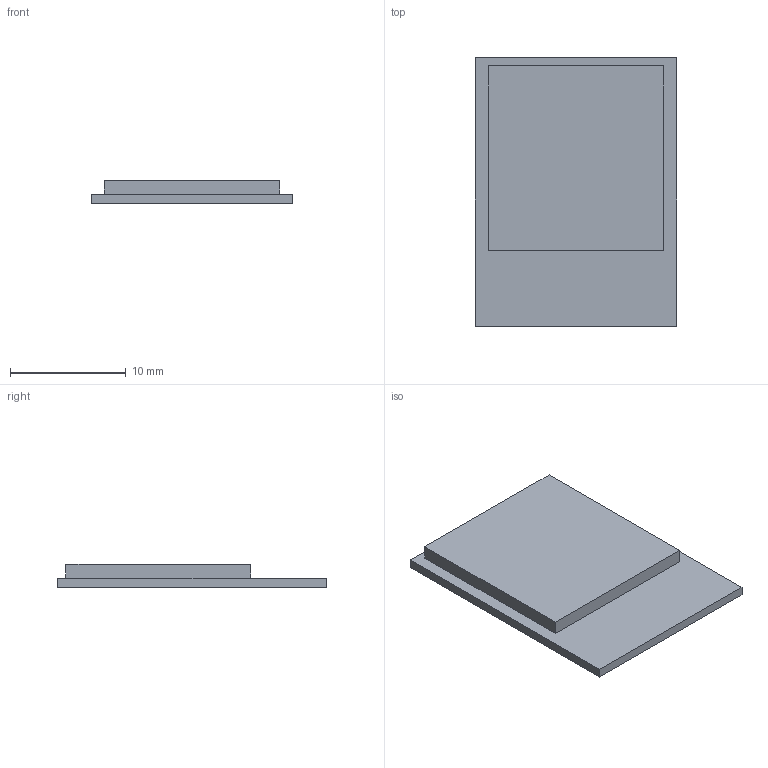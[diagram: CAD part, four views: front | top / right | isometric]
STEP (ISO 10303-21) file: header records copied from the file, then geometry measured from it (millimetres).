
FILE_DESCRIPTION(('Open CASCADE Model'),'2;1');
FILE_NAME('Open CASCADE Shape Model','2026-09-12T19:12:27',('Author'),( 'Open CASCADE'),'Open CASCADE STEP processor 7.9','Open CASCADE 7.9' ,'Unknown');
FILE_SCHEMA(('AUTOMOTIVE_DESIGN { 1 0 10303 214 1 1 1 1 }'));
Length unit declared in the file: millimetre
Products named in the file (1): Open CASCADE STEP translator 7.9 1
Bounding box: 17.4 x 23.2 x 2 mm (x, y, z)
Volume: 614.4 mm3; surface area: 947.2 mm2
Topology: 1 solids, 1 shells, 11 faces, 24 edges, 16 vertices
Faces by surface type: plane 11
Entity records: 620 total; most frequent: CARTESIAN_POINT 100, DIRECTION 96, LINE 72, VECTOR 72, ORIENTED_EDGE 48, PCURVE 48, DEFINITIONAL_REPRESENTATION 48, EDGE_CURVE 24
